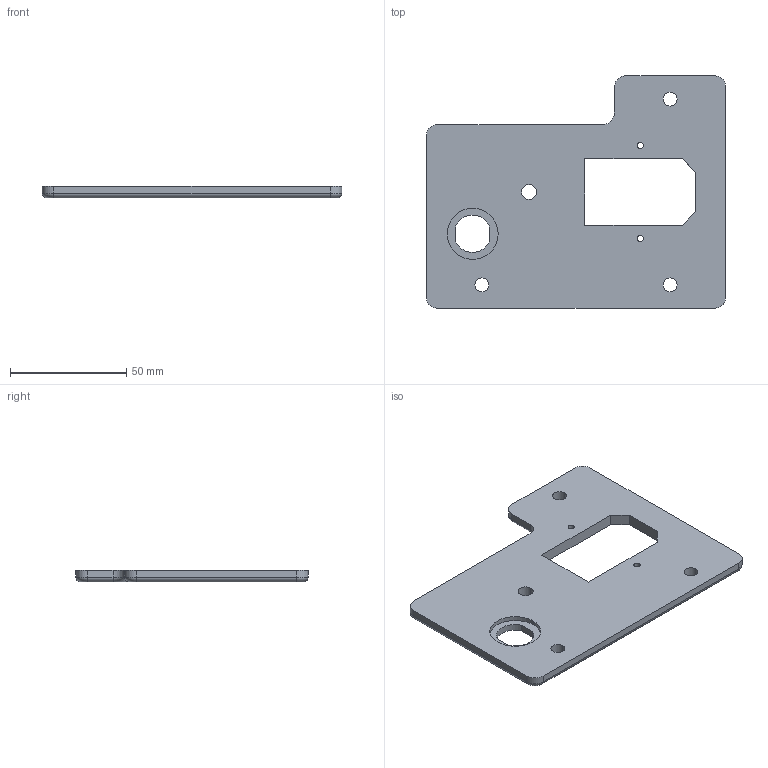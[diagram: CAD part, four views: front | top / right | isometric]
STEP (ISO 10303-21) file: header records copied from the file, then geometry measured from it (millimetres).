
FILE_DESCRIPTION (( 'STEP AP203' ), '1' );
FILE_NAME ('POWER-USB-FAN SW PANEL.STEP', '2012-08-20T19:22:50', ( '' ), ( '' ), 'SwSTEP 2.0', 'SolidWorks 2012', '' );
FILE_SCHEMA (( 'CONFIG_CONTROL_DESIGN' ));
Length unit declared in the file: millimetre
Products named in the file (1): POWER-USB-FAN SW PANEL
Bounding box: 129 x 100 x 5 mm (x, y, z)
Volume: 46883 mm3; surface area: 22381.5 mm2
Topology: 1 solids, 1 shells, 51 faces, 132 edges, 84 vertices
Faces by surface type: cylinder 28, plane 17, torus 6
Entity records: 1681 total; most frequent: DIRECTION 298, CARTESIAN_POINT 268, ORIENTED_EDGE 264, EDGE_CURVE 132, AXIS2_PLACEMENT_3D 114, VERTEX_POINT 84, LINE 70, VECTOR 70
